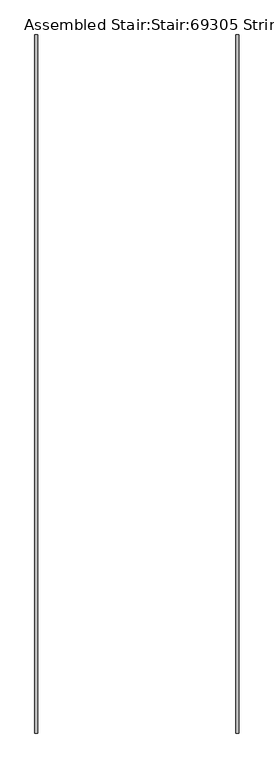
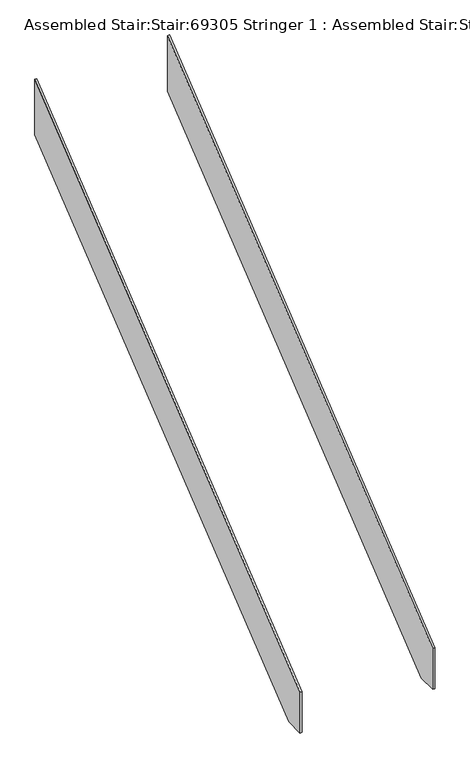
"""IFC4 building model written with IfcOpenShell, lengths in millimetres: stair geometry, Assembled Stair:Stair:69305 Stringer 1 : Assembled Stair:Stair:69305 Stringer 1."""

from ifc_helpers import new_model, si_unit, frame, origin, place, context, project, spatial, polyline, outline, extrude, source, transform, mapped, element, save


def assembled_stair_stair_69305_stringer_1_assembled_stair_stair_98d96019(model_context):
    return source(origin(), model_context, "Body", "SweptSolid", [
        extrude(outline(polyline([(-31176.0232476, 0.0), (-31324.6322236, 0.0), (-31324.6322236, 329.4817026), (-27804.6322236, 3153.0111144), (-27804.6322236, 2704.3243508), (-31176.0232476, 0.0)])), frame((18274.8089026, 0.0, 0.0), z_axis=(1.0, 0.0, 0.0), x_axis=(0.0, 1.0, 0.0)), (0.0, 0.0, 1.0), 15.0),
        extrude(outline(polyline([(-31176.0232476, 0.0), (-31324.6322236, 0.0), (-31324.6322236, 329.4817026), (-27804.6322236, 3153.0111144), (-27804.6322236, 2704.3243508), (-31176.0232476, 0.0)])), frame((17259.8089026, 0.0, 0.0), z_axis=(1.0, 0.0, 0.0), x_axis=(0.0, 1.0, 0.0)), (0.0, 0.0, 1.0), 15.0),
    ])


if __name__ == "__main__":
    model = new_model("IFC4")
    model_context = context("Model", 3, world=origin())
    ifc_project = project(units=[si_unit("LENGTHUNIT", "METRE", prefix="MILLI")], contexts=[model_context])
    site = spatial("IfcSite", under=ifc_project)
    building = spatial("IfcBuilding", under=site)
    placement = place(None, origin())
    assembled_stair_stair_69305_stringer_1_assembled_stair_stair_shape = assembled_stair_stair_69305_stringer_1_assembled_stair_stair_98d96019(model_context)
    element("IfcStair", 1, ObjectType="Assembled Stair:Stair:69305 Stringer 1 : Assembled Stair:Stair:69305 Stringer 1", at=placement, inside=building, context=model_context, shape_type="MappedRepresentation", body=[
        mapped(assembled_stair_stair_69305_stringer_1_assembled_stair_stair_shape, transform((0.0, 0.0, 0.0), x_axis=(1.0, 0.0, 0.0), y_axis=(0.0, 1.0, 0.0), z_axis=(0.0, 0.0, 1.0))),
    ])
    save(model, "model.ifc")
